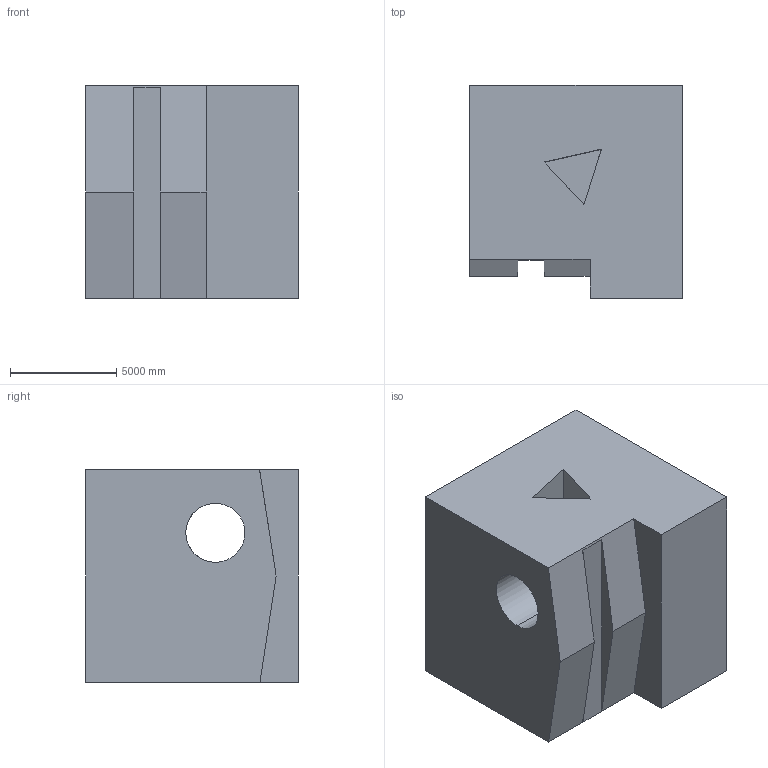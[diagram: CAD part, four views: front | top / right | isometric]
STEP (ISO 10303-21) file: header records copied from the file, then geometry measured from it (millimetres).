
FILE_DESCRIPTION (( 'STEP AP203' ), '1' );
FILE_NAME ('479.STEP', '2022-07-29T11:26:53', ( 'user' ), ( '' ), 'SwSTEP 2.0', 'SolidWorks 2021', '' );
FILE_SCHEMA (( 'CONFIG_CONTROL_DESIGN' ));
Length unit declared in the file: centimetre
Products named in the file (1): 479
Bounding box: 10000 x 10000 x 10000 mm (x, y, z)
Volume: 805283616374.2 mm3; surface area: 761806876.5 mm2
Topology: 1 solids, 1 shells, 27 faces, 79 edges, 52 vertices
Faces by surface type: plane 20, cylinder 7
Entity records: 985 total; most frequent: CARTESIAN_POINT 180, ORIENTED_EDGE 158, DIRECTION 147, EDGE_CURVE 79, VECTOR 53, LINE 53, VERTEX_POINT 52, AXIS2_PLACEMENT_3D 47
